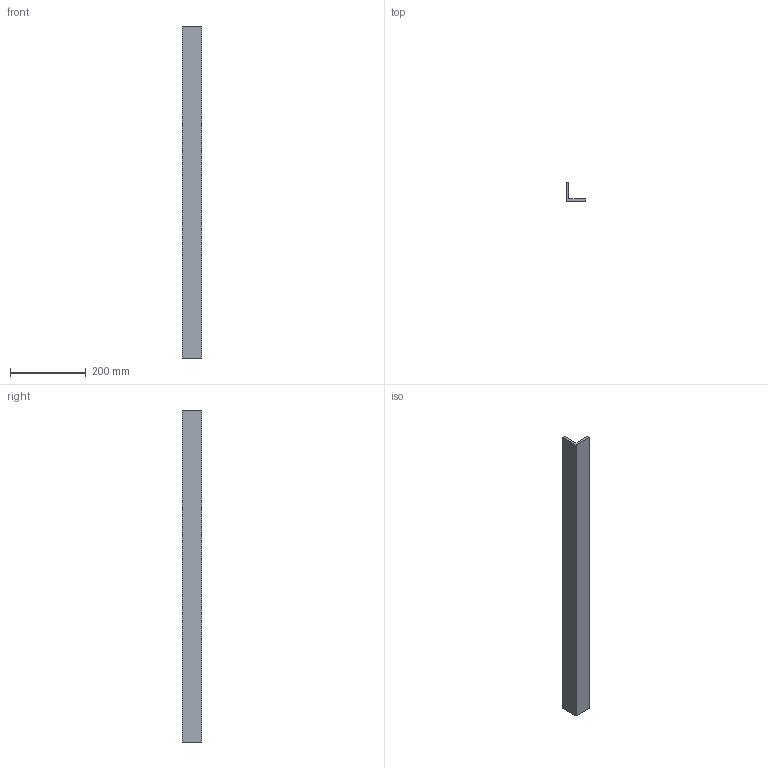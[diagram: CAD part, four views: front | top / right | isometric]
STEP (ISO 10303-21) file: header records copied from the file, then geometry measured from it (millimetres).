
FILE_DESCRIPTION(('Open CASCADE Model'),'2;1');
FILE_NAME('Open CASCADE Shape Model','2026-09-19T12:55:22',('Author'),( 'Open CASCADE'),'Open CASCADE STEP processor 7.9','Open CASCADE 7.9' ,'Unknown');
FILE_SCHEMA(('AUTOMOTIVE_DESIGN { 1 0 10303 214 1 1 1 1 }'));
Length unit declared in the file: millimetre
Products named in the file (1): Open CASCADE STEP translator 7.9 393
Bounding box: 50.8 x 50.8 x 878 mm (x, y, z)
Volume: 531047.3 mm3; surface area: 179619.3 mm2
Topology: 1 solids, 1 shells, 8 faces, 18 edges, 12 vertices
Faces by surface type: plane 8
Entity records: 466 total; most frequent: CARTESIAN_POINT 75, DIRECTION 72, LINE 54, VECTOR 54, ORIENTED_EDGE 36, PCURVE 36, DEFINITIONAL_REPRESENTATION 36, EDGE_CURVE 18
